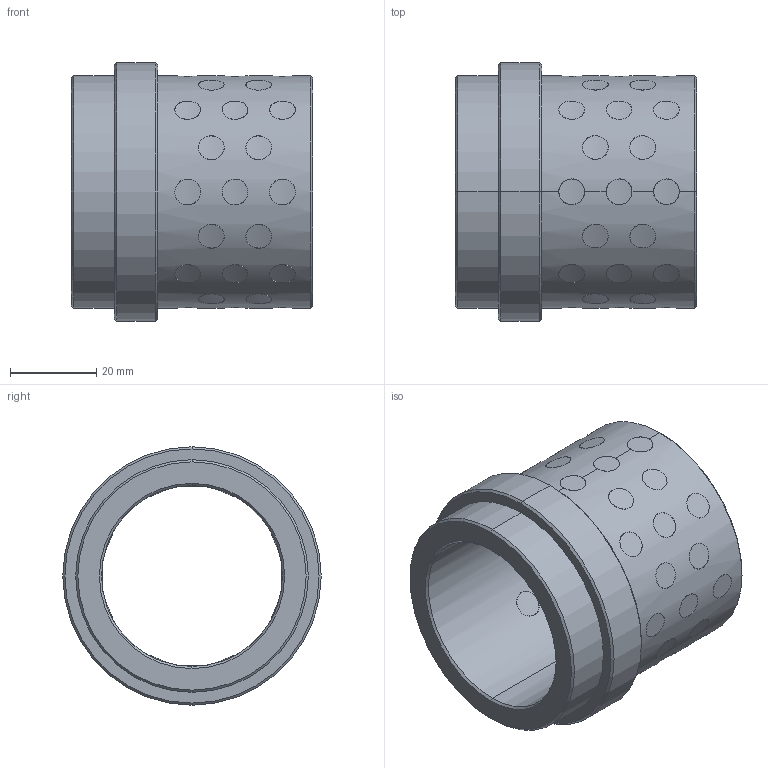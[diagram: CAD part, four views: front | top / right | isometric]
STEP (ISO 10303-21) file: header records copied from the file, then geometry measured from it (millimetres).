
FILE_DESCRIPTION((''),'2;1');
FILE_NAME('G31242046','2017-12-31T',('MANU'),(''),'PRO/ENGINEER BY PARAMETRIC TECHNOLOGY CORPORATION, 2012130','PRO/ENGINEER BY PARAMETRIC TECHNOLOGY CORPORATION, 2012130','');
FILE_SCHEMA(('CONFIG_CONTROL_DESIGN'));
Length unit declared in the file: millimetre
Products named in the file (1): G31242046
Bounding box: 56 x 60 x 60 mm (x, y, z)
Volume: 55804.4 mm3; surface area: 28682.1 mm2
Topology: 41 solids, 41 shells, 264 faces, 564 edges, 372 vertices
Faces by surface type: cylinder 248, cone 12, plane 4
Entity records: 12938 total; most frequent: CARTESIAN_POINT 7724, ORIENTED_EDGE 1128, DIRECTION 776, EDGE_CURVE 564, VERTEX_POINT 372, B_SPLINE_CURVE_WITH_KNOTS 344, EDGE_LOOP 336, AXIS2_PLACEMENT_3D 292
